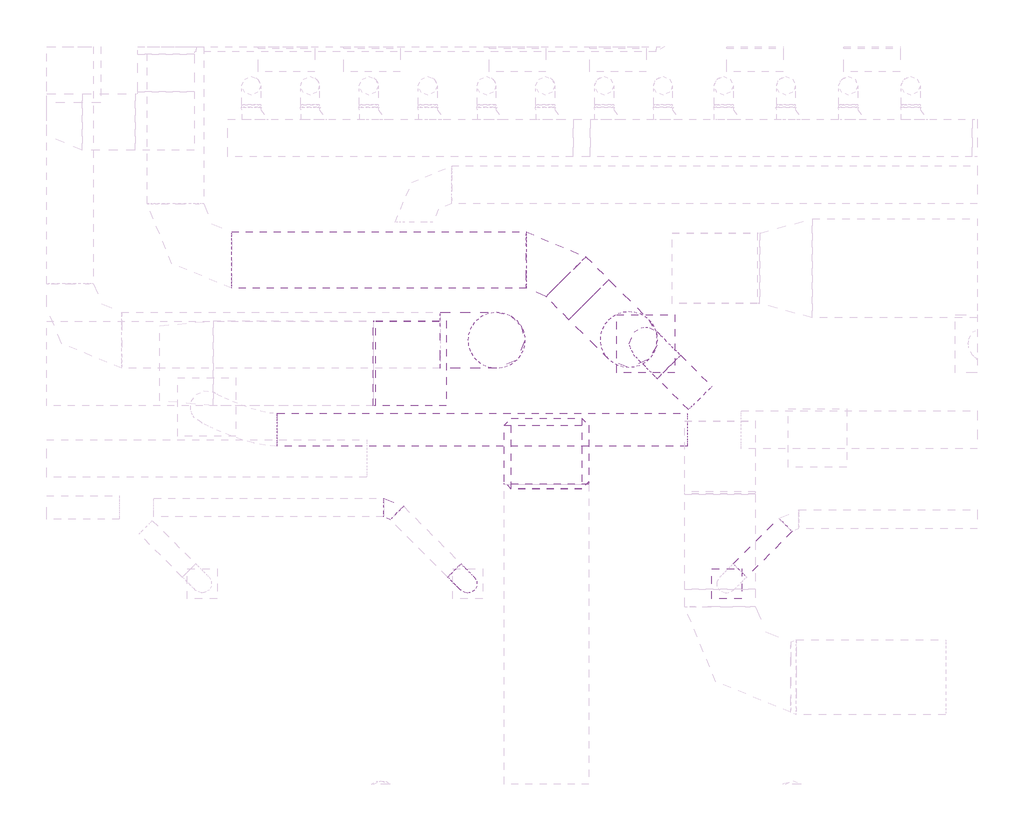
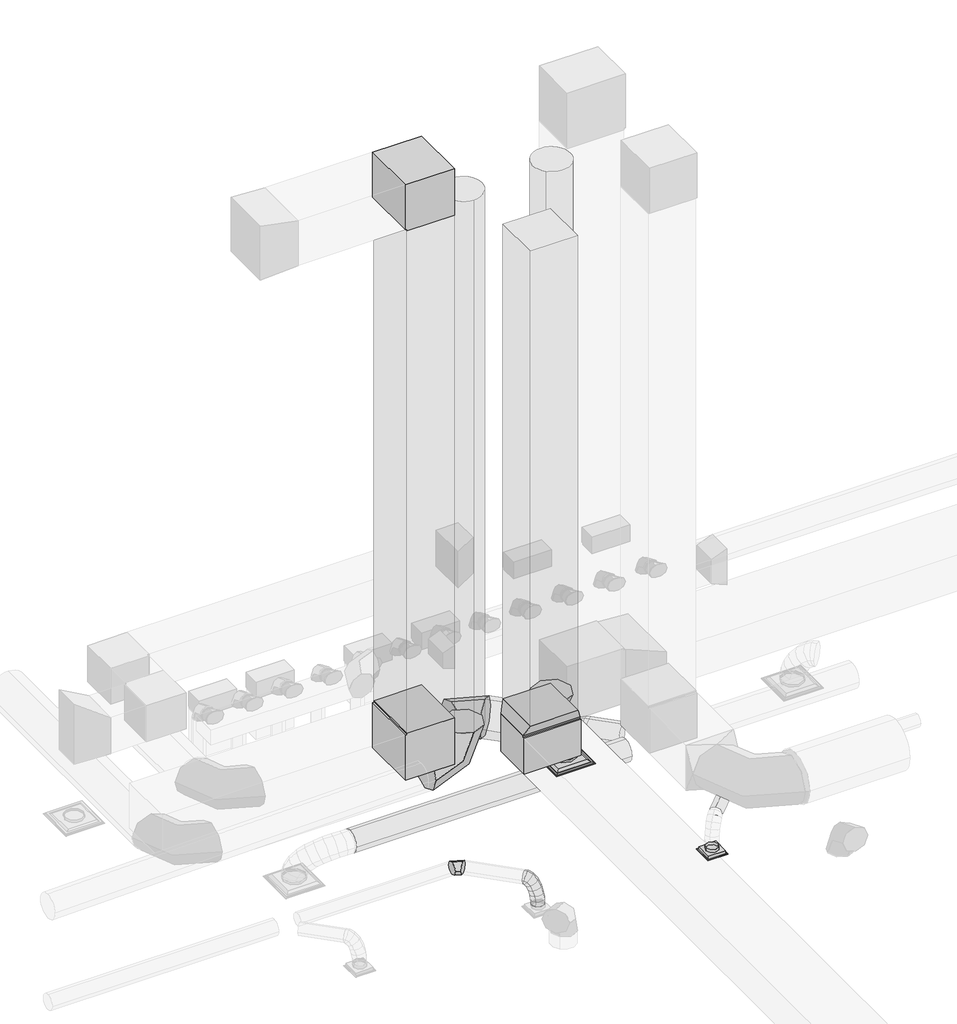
# One storey, part 18 of 33: 11 duct segments, 8 duct fittings, 2 air terminals.
"""IFC4 building model written with IfcOpenShell, lengths in millimetres."""

from ifc_helpers import new_model, si_unit, point, frame, frame_2d, origin, place, context, project, spatial, polyline, circle_curve, ellipse_curve, trimmed, segment, composite_curve, outline, extrude, transform, mapped, element, save
from ifc_brep_helpers import plane_surface, cylinder_surface, advanced_brep
from components import air_terminal_1ddfe03e, air_terminal_0721d01d, rectangular_elbow_mitered_standard_c88fa7ad, rectangular_elbow_mitered_standard_11e09260, rectangular_transition_angle_45_degree_c154c6b5, round_elbow_1_d_29f30982, round_elbow_1_d_755a5f0f, round_elbow_1_d_ab3aa7ba

model = new_model("IFC4")

# Units and contexts
model_context = context("Model", 3, world=origin())
ifc_project = project(units=[si_unit("LENGTHUNIT", "METRE", prefix="MILLI")], contexts=[model_context])

# Site, building, storey
site = spatial("IfcSite", under=ifc_project)
building = spatial("IfcBuilding", under=site)
storey = spatial("IfcBuildingStorey", under=building, Name="T.O. SLAB - 1ST", Elevation=-25.4)

# Air terminals
placement = place(None, origin())
air_terminal_shape = air_terminal_1ddfe03e(model_context)
element("IfcAirTerminal", 1, ObjectType="Titus-Round_Neck_Supply_Diffuser-PCS_Surface_Mount : PCS AA-14_24x24", at=placement, inside=storey, context=model_context, shape_type="MappedRepresentation", body=[
    mapped(air_terminal_shape, transform((19478.9003593, 22983.6286711, 3327.4), x_axis=(1.0, 0.0, 0.0), y_axis=(0.0, -1.0, 0.0), z_axis=(0.0, 0.0, -1.0))),
])
air_terminal_2_shape = air_terminal_0721d01d(model_context)
element("IfcAirTerminal", 2, ObjectType="Titus-Round_Neck_Supply_Diffuser-PCS_Surface_Mount : PCS AA-08_12x12", at=placement, inside=storey, context=model_context, shape_type="MappedRepresentation", body=[
    mapped(air_terminal_2_shape, transform((20351.6723097, 20391.6894865, 3022.6), x_axis=(1.0, 0.0, 0.0), y_axis=(0.0, -1.0, 0.0), z_axis=(0.0, 0.0, -1.0))),
])

# Duct fittings
rectangular_elbow_mitered_standard_shape = rectangular_elbow_mitered_standard_c88fa7ad(model_context)
element("IfcDuctFitting", 3, ObjectType="Rectangular Elbow - Mitered : Standard", at=placement, inside=storey, context=model_context, shape_type="MappedRepresentation", body=[
    mapped(rectangular_elbow_mitered_standard_shape, transform((18409.4301182, 21795.293068, 4826.0), x_axis=(0.0, 1.0, 0.0), y_axis=(0.0, 0.0, 1.0), z_axis=(1.0, 0.0, 0.0))),
])
rectangular_elbow_mitered_standard_2_shape = rectangular_elbow_mitered_standard_11e09260(model_context)
element("IfcDuctFitting", 4, ObjectType="Rectangular Elbow - Mitered : Standard", at=placement, inside=storey, context=model_context, shape_type="MappedRepresentation", body=[
    mapped(rectangular_elbow_mitered_standard_2_shape, transform((16945.8264124, 22769.923209, 4777.74), x_axis=(1.0, 0.0, 0.0), y_axis=(0.0, 0.0, 1.0), z_axis=(0.0, -1.0, 0.0))),
])
element("IfcDuctFitting", 5, ObjectType="Rectangular Elbow - Mitered : Standard", at=placement, inside=storey, context=model_context, shape_type="MappedRepresentation", body=[
    mapped(rectangular_elbow_mitered_standard_2_shape, transform((16945.8264124, 22769.923209, 14116.05), x_axis=(0.0, 0.0, 1.0), y_axis=(-1.0, 0.0, 0.0), z_axis=(0.0, -1.0, 0.0))),
])
rectangular_transition_angle_45_degree_shape = rectangular_transition_angle_45_degree_c154c6b5(model_context)
element("IfcDuctFitting", 6, ObjectType="Rectangular Transition - Angle : 45 Degree", at=placement, inside=storey, context=model_context, shape_type="MappedRepresentation", body=[
    mapped(rectangular_transition_angle_45_degree_shape, transform((18409.4301182, 21795.293068, 5156.2), x_axis=(0.0, 0.0, 1.0), y_axis=(1.0, 0.0, 0.0), z_axis=(0.0, 1.0, 0.0))),
])
round_elbow_1_d_shape = round_elbow_1_d_29f30982(model_context)
element("IfcDuctFitting", 7, ObjectType="Round Elbow : 1 D", at=placement, inside=storey, context=model_context, shape_type="MappedRepresentation", body=[
    mapped(round_elbow_1_d_shape, transform((17870.4478422, 23020.0042983, 3892.55), x_axis=(1.0, 0.0, 0.0), y_axis=(0.0, 0.0, 1.0), z_axis=(0.0, -1.0, 0.0))),
])
element("IfcDuctFitting", 8, ObjectType="Round Elbow : 1 D", at=placement, inside=storey, context=model_context, shape_type="MappedRepresentation", body=[
    mapped(round_elbow_1_d_shape, transform((19297.1535131, 23027.9919267, 3892.55), x_axis=(0.7071067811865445, -0.7071067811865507, 0.0), y_axis=(0.0, 0.0, 1.0), z_axis=(-0.7071067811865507, -0.7071067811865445, 0.0))),
])
round_elbow_1_d_2_shape = round_elbow_1_d_755a5f0f(model_context)
element("IfcDuctFitting", 9, ObjectType="Round Elbow : 1 D", at=placement, inside=storey, context=model_context, shape_type="MappedRepresentation", body=[
    mapped(round_elbow_1_d_2_shape, transform((18440.1410857, 23885.0043541, 3892.55), x_axis=(-0.7071067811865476, 0.7071067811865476, 0.0), y_axis=(-0.7071067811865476, -0.7071067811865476, 0.0), z_axis=(0.0, 0.0, 1.0))),
])
round_elbow_1_d_3_shape = round_elbow_1_d_ab3aa7ba(model_context)
element("IfcDuctFitting", 10, ObjectType="Round Elbow : 1 D", at=placement, inside=storey, context=model_context, shape_type="MappedRepresentation", body=[
    mapped(round_elbow_1_d_3_shape, transform((16734.2539256, 21215.1568577, 3530.6), x_axis=(-0.7071067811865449, 0.7071067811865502, 0.0), y_axis=(-0.7071067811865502, -0.7071067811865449, 0.0), z_axis=(0.0, 0.0, 1.0))),
])

# Duct segments
element("IfcDuctSegment", 11, ObjectType="Flex - Round", at=placement, inside=storey, context=model_context, shape_type="AdvancedBrep", body=[
    advanced_brep(
    [(17485.8794762, 20607.215405, 3530.6), (17414.0374273, 20535.373356, 3429.0), (17342.1953783, 20463.531307, 3530.6), (17414.0374273, 20535.373356, 3632.2), (17505.9829765, 20587.1119047, 3530.6), (17417.1673966, 20532.2433867, 3429.0), (17362.4010392, 20443.3256461, 3530.6), (17451.2166192, 20498.1941641, 3632.2), (17629.3956574, 20464.8406433, 3117.85), (17629.7309474, 20321.1569365, 3117.85), (17486.0472407, 20320.8216465, 3117.85), (17485.7119506, 20464.5053532, 3117.85), (17534.02094, 20559.1582995, 3510.7190932), (17419.4612965, 20529.9563885, 3427.3734621), (17390.5854391, 20415.2260451, 3510.6152594), (17505.1450826, 20444.4279562, 3593.9608905), (17571.1248871, 20522.2655796, 3457.7496289), (17440.2443078, 20509.2916917, 3397.7037083), (17427.7663971, 20378.2567527, 3457.5358548), (17558.6469764, 20391.2306406, 3517.5817754), (17598.177813, 20495.4874003, 3381.8316024), (17459.1464188, 20490.5815486, 3344.6591332), (17454.8456663, 20351.4524976, 3381.5439013), (17593.8770606, 20356.3583493, 3418.7163706), (17616.2153032, 20477.7248025, 3293.1032112), (17474.0785291, 20475.8770044, 3271.2064458), (17472.8815706, 20333.6914616, 3292.8233117), (17615.0183447, 20335.5392596, 3314.7200771), (17626.2743392, 20467.8773136, 3201.7268141), (17482.9013425, 20467.2397397, 3191.059909), (17482.9310377, 20323.8533402, 3201.5338375), (17626.3040345, 20324.4909141, 3212.2007426), (17629.3956574, 20464.8406433, 3123.1516787), (17485.7119506, 20464.5053532, 3120.3064954), (17486.0472407, 20320.8216465, 3123.0874722), (17629.7309474, 20321.1569365, 3125.9326555)],
    [
        (0, 1, circle_curve(frame((17414.0374273, 20535.373356, 3530.6), z_axis=(-0.7071067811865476, 0.7071067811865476, 0.0), x_axis=(0.7071067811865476, 0.7071067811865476, 0.0)), 101.6)),
        (1, 2, circle_curve(frame((17414.0374273, 20535.373356, 3530.6), z_axis=(-0.7071067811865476, 0.7071067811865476, 0.0), x_axis=(0.7071067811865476, 0.7071067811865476, 0.0)), 101.6)),
        (2, 3, circle_curve(frame((17414.0374273, 20535.373356, 3530.6), z_axis=(-0.7071067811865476, 0.7071067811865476, 0.0), x_axis=(0.7071067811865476, 0.7071067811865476, 0.0)), 101.6)),
        (3, 0, circle_curve(frame((17414.0374273, 20535.373356, 3530.6), z_axis=(-0.7071067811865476, 0.7071067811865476, 0.0), x_axis=(0.7071067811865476, 0.7071067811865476, 0.0)), 101.6)),
        (0, 4),
        (4, 5, ellipse_curve(frame((17434.1920079, 20515.2187754, 3530.6), z_axis=(-0.6885405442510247, 0.6875621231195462, 0.23058674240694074), x_axis=(-0.16098577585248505, 0.16511459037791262, -0.9730471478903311)), 104.4137922, 101.6)),
        (5, 1),
        (5, 6, ellipse_curve(frame((17434.1920079, 20515.2187754, 3530.6), z_axis=(-0.6885405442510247, 0.6875621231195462, 0.23058674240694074), x_axis=(-0.16098577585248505, 0.16511459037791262, -0.9730471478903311)), 104.4137922, 101.6)),
        (6, 2),
        (6, 7, ellipse_curve(frame((17434.1920079, 20515.2187754, 3530.6), z_axis=(-0.6885405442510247, 0.6875621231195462, 0.23058674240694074), x_axis=(-0.16098577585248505, 0.16511459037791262, -0.9730471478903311)), 104.4137922, 101.6)),
        (7, 3),
        (7, 4, ellipse_curve(frame((17434.1920079, 20515.2187754, 3530.6), z_axis=(-0.6885405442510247, 0.6875621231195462, 0.23058674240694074), x_axis=(-0.16098577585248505, 0.16511459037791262, -0.9730471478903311)), 104.4137922, 101.6)),
        (8, 9, circle_curve(frame((17557.721449, 20392.8311449, 3117.85), z_axis=(0.0, 0.0, -1.0), x_axis=(0.7054548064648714, 0.7087549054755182, 0.0)), 101.6)),
        (9, 10, circle_curve(frame((17557.721449, 20392.8311449, 3117.85), z_axis=(0.0, 0.0, -1.0), x_axis=(0.7054548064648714, 0.7087549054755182, 0.0)), 101.6)),
        (10, 11, circle_curve(frame((17557.721449, 20392.8311449, 3117.85), z_axis=(0.0, 0.0, -1.0), x_axis=(0.7054548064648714, 0.7087549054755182, 0.0)), 101.6)),
        (11, 8, circle_curve(frame((17557.721449, 20392.8311449, 3117.85), z_axis=(0.0, 0.0, -1.0), x_axis=(0.7054548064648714, 0.7087549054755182, 0.0)), 101.6)),
        (4, 12),
        (12, 13, ellipse_curve(frame((17462.3031895, 20487.1921723, 3510.6671763), z_axis=(-0.5732083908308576, 0.5708059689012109, 0.5878883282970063), x_axis=(-0.41426514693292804, 0.41713793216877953, -0.8089377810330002)), 102.96626, 101.6)),
        (13, 5),
        (13, 14, ellipse_curve(frame((17462.3031895, 20487.1921723, 3510.6671763), z_axis=(-0.5732083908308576, 0.5708059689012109, 0.5878883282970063), x_axis=(-0.41426514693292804, 0.41713793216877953, -0.8089377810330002)), 102.96626, 101.6)),
        (14, 6),
        (14, 15, ellipse_curve(frame((17462.3031895, 20487.1921723, 3510.6671763), z_axis=(-0.5732083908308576, 0.5708059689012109, 0.5878883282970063), x_axis=(-0.41426514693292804, 0.41713793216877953, -0.8089377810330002)), 102.96626, 101.6)),
        (15, 7),
        (15, 12, ellipse_curve(frame((17462.3031895, 20487.1921723, 3510.6671763), z_axis=(-0.5732083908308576, 0.5708059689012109, 0.5878883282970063), x_axis=(-0.41426514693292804, 0.41713793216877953, -0.8089377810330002)), 102.96626, 101.6)),
        (12, 16),
        (16, 17, ellipse_curve(frame((17499.4456421, 20450.2611661, 3457.6427419), z_axis=(-0.4135460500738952, 0.4104720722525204, 0.8127067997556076), x_axis=(-0.5740368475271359, 0.5753079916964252, -0.5826683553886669)), 102.8692851, 101.6)),
        (17, 13),
        (17, 18, ellipse_curve(frame((17499.4456421, 20450.2611661, 3457.6427419), z_axis=(-0.4135460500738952, 0.4104720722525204, 0.8127067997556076), x_axis=(-0.5740368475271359, 0.5753079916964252, -0.5826683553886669)), 102.8692851, 101.6)),
        (18, 14),
        (18, 19, ellipse_curve(frame((17499.4456421, 20450.2611661, 3457.6427419), z_axis=(-0.4135460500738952, 0.4104720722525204, 0.8127067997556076), x_axis=(-0.5740368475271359, 0.5753079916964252, -0.5826683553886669)), 102.8692851, 101.6)),
        (19, 15),
        (19, 16, ellipse_curve(frame((17499.4456421, 20450.2611661, 3457.6427419), z_axis=(-0.4135460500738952, 0.4104720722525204, 0.8127067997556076), x_axis=(-0.5740368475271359, 0.5753079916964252, -0.5826683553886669)), 102.8692851, 101.6)),
        (16, 20),
        (20, 21, ellipse_curve(frame((17526.5117397, 20423.4699489, 3381.6877519), z_axis=(-0.2581424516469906, 0.2550216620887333, 0.9318403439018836), x_axis=(-0.6595971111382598, 0.6582256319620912, -0.3628645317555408)), 102.0449505, 101.6)),
        (21, 17),
        (21, 22, ellipse_curve(frame((17526.5117397, 20423.4699489, 3381.6877519), z_axis=(-0.2581424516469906, 0.2550216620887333, 0.9318403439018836), x_axis=(-0.6595971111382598, 0.6582256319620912, -0.3628645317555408)), 102.0449505, 101.6)),
        (22, 18),
        (22, 23, ellipse_curve(frame((17526.5117397, 20423.4699489, 3381.6877519), z_axis=(-0.2581424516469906, 0.2550216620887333, 0.9318403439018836), x_axis=(-0.6595971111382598, 0.6582256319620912, -0.3628645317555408)), 102.0449505, 101.6)),
        (23, 19),
        (23, 20, ellipse_curve(frame((17526.5117397, 20423.4699489, 3381.6877519), z_axis=(-0.2581424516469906, 0.2550216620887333, 0.9318403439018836), x_axis=(-0.6595971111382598, 0.6582256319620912, -0.3628645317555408)), 102.0449505, 101.6)),
        (20, 24),
        (24, 25, ellipse_curve(frame((17544.5484369, 20405.708132, 3292.9632615), z_axis=(-0.15244196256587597, 0.14980311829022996, 0.9768932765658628), x_axis=(-0.6935272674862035, 0.6879980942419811, -0.2137254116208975)), 101.7990065, 101.6)),
        (25, 21),
        (25, 26, ellipse_curve(frame((17544.5484369, 20405.708132, 3292.9632615), z_axis=(-0.15244196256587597, 0.14980311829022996, 0.9768932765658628), x_axis=(-0.6935272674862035, 0.6879980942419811, -0.2137254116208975)), 101.7990065, 101.6)),
        (26, 22),
        (26, 27, ellipse_curve(frame((17544.5484369, 20405.708132, 3292.9632615), z_axis=(-0.15244196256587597, 0.14980311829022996, 0.9768932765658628), x_axis=(-0.6935272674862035, 0.6879980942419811, -0.2137254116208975)), 101.7990065, 101.6)),
        (27, 23),
        (27, 24, ellipse_curve(frame((17544.5484369, 20405.708132, 3292.9632615), z_axis=(-0.15244196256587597, 0.14980311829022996, 0.9768932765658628), x_axis=(-0.6935272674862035, 0.6879980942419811, -0.2137254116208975)), 101.7990065, 101.6)),
        (24, 28),
        (28, 29, ellipse_curve(frame((17554.6026885, 20395.8653269, 3201.6303258), z_axis=(-0.07431986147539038, 0.07263598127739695, 0.9945856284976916), x_axis=(-0.709471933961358, 0.6970295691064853, -0.10391994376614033)), 101.7208169, 101.6)),
        (29, 25),
        (29, 30, ellipse_curve(frame((17554.6026885, 20395.8653269, 3201.6303258), z_axis=(-0.07431986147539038, 0.07263598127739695, 0.9945856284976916), x_axis=(-0.709471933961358, 0.6970295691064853, -0.10391994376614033)), 101.7208169, 101.6)),
        (30, 26),
        (30, 31, ellipse_curve(frame((17554.6026885, 20395.8653269, 3201.6303258), z_axis=(-0.07431986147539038, 0.07263598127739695, 0.9945856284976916), x_axis=(-0.709471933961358, 0.6970295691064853, -0.10391994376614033)), 101.7208169, 101.6)),
        (31, 27),
        (31, 28, ellipse_curve(frame((17554.6026885, 20395.8653269, 3201.6303258), z_axis=(-0.07431986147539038, 0.07263598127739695, 0.9945856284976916), x_axis=(-0.709471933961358, 0.6970295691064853, -0.10391994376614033)), 101.7208169, 101.6)),
        (28, 32),
        (32, 33, ellipse_curve(frame((17557.721449, 20392.8311449, 3123.1195755), z_axis=(-0.019839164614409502, 0.019301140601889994, 0.9996168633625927), x_axis=(-0.7164843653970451, 0.6970538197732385, -0.027678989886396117)), 101.6389416, 101.6)),
        (33, 29),
        (33, 34, ellipse_curve(frame((17557.721449, 20392.8311449, 3123.1195755), z_axis=(-0.019839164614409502, 0.019301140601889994, 0.9996168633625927), x_axis=(-0.7164843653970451, 0.6970538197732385, -0.027678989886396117)), 101.6389416, 101.6)),
        (34, 30),
        (34, 35, ellipse_curve(frame((17557.721449, 20392.8311449, 3123.1195755), z_axis=(-0.019839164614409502, 0.019301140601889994, 0.9996168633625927), x_axis=(-0.7164843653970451, 0.6970538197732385, -0.027678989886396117)), 101.6389416, 101.6)),
        (35, 31),
        (35, 32, ellipse_curve(frame((17557.721449, 20392.8311449, 3123.1195755), z_axis=(-0.019839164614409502, 0.019301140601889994, 0.9996168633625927), x_axis=(-0.7164843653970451, 0.6970538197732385, -0.027678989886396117)), 101.6389416, 101.6)),
        (32, 8),
        (11, 33),
        (10, 34),
        (9, 35),
    ],
    [
        plane_surface(frame((17414.0374273, 20535.373356, 3429.0), z_axis=(-0.7071067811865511, 0.707106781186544, 0.0), x_axis=(0.707106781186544, 0.7071067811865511, 0.0))),
        cylinder_surface(frame((17414.0374273, 20535.373356, 3530.6), z_axis=(-0.7071067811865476, 0.7071067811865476, 0.0), x_axis=(0.7071067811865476, 0.7071067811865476, 0.0)), 101.6),
        plane_surface(frame((17557.721449, 20291.2311449, 3117.85), z_axis=(0.0, 0.0, -1.0), x_axis=(-1.0, 0.0, 0.0))),
        cylinder_surface(frame((17434.1920079, 20515.2187754, 3530.6), z_axis=(-0.6328640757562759, 0.6309599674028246, 0.4487455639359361), x_axis=(0.7061540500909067, 0.7080581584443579, 0.0003190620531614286)), 101.6),
        cylinder_surface(frame((17462.3031895, 20487.1921723, 3510.6671763), z_axis=(-0.4983408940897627, 0.4955039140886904, 0.7114297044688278), x_axis=(0.7056702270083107, 0.7085399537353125, 0.000815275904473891)), 101.6),
        cylinder_surface(frame((17499.4456421, 20450.2611661, 3457.6427419), z_axis=(-0.3185458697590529, 0.3153107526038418, 0.8939282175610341), x_axis=(0.7053983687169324, 0.7088097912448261, 0.0013495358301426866)), 101.6),
        cylinder_surface(frame((17526.5117397, 20423.4699489, 3381.6877519), z_axis=(-0.19548785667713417, 0.19250861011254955, 0.9616261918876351), x_axis=(0.7053602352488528, 0.7088474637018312, 0.0014871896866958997)), 101.6),
        cylinder_surface(frame((17544.5484369, 20405.708132, 3292.9632615), z_axis=(-0.10880005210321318, 0.10651192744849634, 0.9883409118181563), x_axis=(0.7053949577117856, 0.7088133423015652, 0.0012646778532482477)), 101.6),
        cylinder_surface(frame((17554.6026885, 20395.8653269, 3201.6303258), z_axis=(-0.039663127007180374, 0.038587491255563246, 0.998467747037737), x_axis=(0.7054422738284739, 0.7087670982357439, 0.0006314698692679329)), 101.6),
        cylinder_surface(frame((17557.721449, 20392.8311449, 3123.1195755), z_axis=(0.0, 0.0, 1.0), x_axis=(0.7054548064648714, 0.7087549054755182, 0.0)), 101.6),
    ],
    [
        (0, [[1, 2, 3, 4]]),
        (1, [[-1, 5, 6, 7]]),
        (1, [[-2, -7, 8, 9]]),
        (1, [[-3, -9, 10, 11]]),
        (1, [[-4, -11, 12, -5]]),
        (2, [[13, 14, 15, 16]]),
        (3, [[-6, 17, 18, 19]]),
        (3, [[-8, -19, 20, 21]]),
        (3, [[-10, -21, 22, 23]]),
        (3, [[-12, -23, 24, -17]]),
        (4, [[-18, 25, 26, 27]]),
        (4, [[-20, -27, 28, 29]]),
        (4, [[-22, -29, 30, 31]]),
        (4, [[-24, -31, 32, -25]]),
        (5, [[-26, 33, 34, 35]]),
        (5, [[-28, -35, 36, 37]]),
        (5, [[-30, -37, 38, 39]]),
        (5, [[-32, -39, 40, -33]]),
        (6, [[-34, 41, 42, 43]]),
        (6, [[-36, -43, 44, 45]]),
        (6, [[-38, -45, 46, 47]]),
        (6, [[-40, -47, 48, -41]]),
        (7, [[-42, 49, 50, 51]]),
        (7, [[-44, -51, 52, 53]]),
        (7, [[-46, -53, 54, 55]]),
        (7, [[-48, -55, 56, -49]]),
        (8, [[-50, 57, 58, 59]]),
        (8, [[-52, -59, 60, 61]]),
        (8, [[-54, -61, 62, 63]]),
        (8, [[-56, -63, 64, -57]]),
        (9, [[-58, 65, -16, 66]]),
        (9, [[-60, -66, -15, 67]]),
        (9, [[-62, -67, -14, 68]]),
        (9, [[-64, -68, -13, -65]]),
    ],
),
])
element("IfcDuctSegment", 12, ObjectType="Flex - Round", at=placement, inside=storey, context=model_context, shape_type="AdvancedBrep", body=[
    advanced_brep(
    [(19604.6304607, 22606.4513995, 3886.2), (19730.3507862, 22732.1782453, 3708.4), (19856.0711118, 22857.905091, 3886.2), (19730.3507862, 22732.1782453, 4064.0), (19577.1624717, 22633.917964, 3886.2), (19725.9660715, 22736.5627326, 3708.4), (19828.6046125, 22885.370166, 3886.2), (19679.8010126, 22782.7253974, 4064.0), (19353.1774961, 22857.904363, 3416.3), (19353.1760511, 23109.3515343, 3416.3), (19604.6232225, 23109.3529793, 3416.3), (19604.6246675, 22857.9058079, 3416.3), (19537.7734776, 22673.3058813, 3865.0329583), (19721.6061832, 22740.9225017, 3706.0570628), (19789.2177252, 22924.7559765, 3865.0340904), (19605.3850196, 22857.1393561, 4024.0099859), (19477.7037912, 22733.3748672, 3808.0239118), (19687.4575724, 22775.0707143, 3673.6483746), (19729.1492565, 22984.8237446, 3808.0261996), (19519.3954753, 22943.1278975, 3942.4017368), (19426.8149705, 22784.2641878, 3724.9093909), (19656.007946, 22806.5206497, 3622.2830532), (19678.261044, 23035.7124571, 3724.9126721), (19449.0680686, 23013.4559952, 3827.5390098), (19387.5014529, 22823.5788057, 3625.4262092), (19628.6281893, 22833.9011726, 3552.9983522), (19638.9475576, 23075.0270438, 3625.4295692), (19397.8208212, 23064.7046768, 3697.8574262), (19362.1575209, 22848.923838, 3519.3108128), (19610.4357804, 22852.0943713, 3476.8264827), (19613.6034218, 23100.3722798, 3519.3133196), (19365.3251623, 23097.2017465, 3561.7976497), (19353.1774961, 22857.904363, 3438.0554193), (19604.6246675, 22857.9058079, 3424.2448609), (19604.6232225, 23109.3529793, 3438.0563472), (19353.1760511, 23109.3515343, 3451.8669055)],
    [
        (0, 1, circle_curve(frame((19730.3507862, 22732.1782453, 3886.2), z_axis=(0.7071251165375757, -0.7070884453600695, 0.0), x_axis=(-0.7070884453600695, -0.7071251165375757, 0.0)), 177.8)),
        (1, 2, circle_curve(frame((19730.3507862, 22732.1782453, 3886.2), z_axis=(0.7071251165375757, -0.7070884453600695, 0.0), x_axis=(-0.7070884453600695, -0.7071251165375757, 0.0)), 177.8)),
        (2, 3, circle_curve(frame((19730.3507862, 22732.1782453, 3886.2), z_axis=(0.7071251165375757, -0.7070884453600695, 0.0), x_axis=(-0.7070884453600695, -0.7071251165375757, 0.0)), 177.8)),
        (3, 0, circle_curve(frame((19730.3507862, 22732.1782453, 3886.2), z_axis=(0.7071251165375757, -0.7070884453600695, 0.0), x_axis=(-0.7070884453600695, -0.7071251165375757, 0.0)), 177.8)),
        (0, 4),
        (4, 5, ellipse_curve(frame((19702.8835421, 22759.644065, 3886.2), z_axis=(0.6954967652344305, -0.695468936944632, 0.18057465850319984), x_axis=(0.12771131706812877, -0.12765981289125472, -0.9835612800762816)), 180.7716545, 177.8)),
        (5, 1),
        (5, 6, ellipse_curve(frame((19702.8835421, 22759.644065, 3886.2), z_axis=(0.6954967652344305, -0.695468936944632, 0.18057465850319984), x_axis=(0.12771131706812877, -0.12765981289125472, -0.9835612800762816)), 180.7716545, 177.8)),
        (6, 2),
        (6, 7, ellipse_curve(frame((19702.8835421, 22759.644065, 3886.2), z_axis=(0.6954967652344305, -0.695468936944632, 0.18057465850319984), x_axis=(0.12771131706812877, -0.12765981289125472, -0.9835612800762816)), 180.7716545, 177.8)),
        (7, 3),
        (7, 4, ellipse_curve(frame((19702.8835421, 22759.644065, 3886.2), z_axis=(0.6954967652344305, -0.695468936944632, 0.18057465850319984), x_axis=(0.12771131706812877, -0.12765981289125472, -0.9835612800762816)), 180.7716545, 177.8)),
        (8, 9, circle_curve(frame((19478.9003593, 22983.6286711, 3416.3), z_axis=(0.0, 0.0, -1.0), x_axis=(-0.7071027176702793, -0.7071108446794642, 0.0)), 177.8)),
        (9, 10, circle_curve(frame((19478.9003593, 22983.6286711, 3416.3), z_axis=(0.0, 0.0, -1.0), x_axis=(-0.7071027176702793, -0.7071108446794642, 0.0)), 177.8)),
        (10, 11, circle_curve(frame((19478.9003593, 22983.6286711, 3416.3), z_axis=(0.0, 0.0, -1.0), x_axis=(-0.7071027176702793, -0.7071108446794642, 0.0)), 177.8)),
        (11, 8, circle_curve(frame((19478.9003593, 22983.6286711, 3416.3), z_axis=(0.0, 0.0, -1.0), x_axis=(-0.7071027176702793, -0.7071108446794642, 0.0)), 177.8)),
        (4, 12),
        (12, 13, ellipse_curve(frame((19663.4956014, 22799.0309289, 3865.0335244), z_axis=(0.6281515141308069, -0.6281389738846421, 0.4592026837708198), x_axis=(0.3247300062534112, -0.3246806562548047, -0.8883315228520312)), 178.9607341, 177.8)),
        (13, 5),
        (13, 14, ellipse_curve(frame((19663.4956014, 22799.0309289, 3865.0335244), z_axis=(0.6281515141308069, -0.6281389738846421, 0.4592026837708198), x_axis=(0.3247300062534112, -0.3246806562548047, -0.8883315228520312)), 178.9607341, 177.8)),
        (14, 6),
        (14, 15, ellipse_curve(frame((19663.4956014, 22799.0309289, 3865.0335244), z_axis=(0.6281515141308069, -0.6281389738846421, 0.4592026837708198), x_axis=(0.3247300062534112, -0.3246806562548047, -0.8883315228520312)), 178.9607341, 177.8)),
        (15, 7),
        (15, 12, ellipse_curve(frame((19663.4956014, 22799.0309289, 3865.0335244), z_axis=(0.6281515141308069, -0.6281389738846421, 0.4592026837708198), x_axis=(0.3247300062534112, -0.3246806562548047, -0.8883315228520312)), 178.9607341, 177.8)),
        (12, 16),
        (16, 17, ellipse_curve(frame((19603.4265239, 22859.0993059, 3808.0250557), z_axis=(0.5296907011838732, -0.529689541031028, 0.6624626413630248), x_axis=(0.4684533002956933, -0.4684103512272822, -0.749094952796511)), 179.3853778, 177.8)),
        (17, 13),
        (17, 18, ellipse_curve(frame((19603.4265239, 22859.0993059, 3808.0250557), z_axis=(0.5296907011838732, -0.529689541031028, 0.6624626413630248), x_axis=(0.4684533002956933, -0.4684103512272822, -0.749094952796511)), 179.3853778, 177.8)),
        (18, 14),
        (18, 19, ellipse_curve(frame((19603.4265239, 22859.0993059, 3808.0250557), z_axis=(0.5296907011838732, -0.529689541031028, 0.6624626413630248), x_axis=(0.4684533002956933, -0.4684103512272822, -0.749094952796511)), 179.3853778, 177.8)),
        (19, 15),
        (19, 16, ellipse_curve(frame((19603.4265239, 22859.0993059, 3808.0250557), z_axis=(0.5296907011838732, -0.529689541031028, 0.6624626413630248), x_axis=(0.4684533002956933, -0.4684103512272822, -0.749094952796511)), 179.3853778, 177.8)),
        (16, 20),
        (20, 21, ellipse_curve(frame((19552.5380073, 22909.9883224, 3724.9110315), z_axis=(0.40602399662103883, -0.4060311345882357, 0.8187082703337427), x_axis=(0.5789267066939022, -0.5789016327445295, -0.5742096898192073)), 178.7290952, 177.8)),
        (21, 17),
        (21, 22, ellipse_curve(frame((19552.5380073, 22909.9883224, 3724.9110315), z_axis=(0.40602399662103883, -0.4060311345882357, 0.8187082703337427), x_axis=(0.5789267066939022, -0.5789016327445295, -0.5742096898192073)), 178.7290952, 177.8)),
        (22, 18),
        (22, 23, ellipse_curve(frame((19552.5380073, 22909.9883224, 3724.9110315), z_axis=(0.40602399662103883, -0.4060311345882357, 0.8187082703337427), x_axis=(0.5789267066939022, -0.5789016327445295, -0.5742096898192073)), 178.7290952, 177.8)),
        (23, 19),
        (23, 20, ellipse_curve(frame((19552.5380073, 22909.9883224, 3724.9110315), z_axis=(0.40602399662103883, -0.4060311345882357, 0.8187082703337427), x_axis=(0.5789267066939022, -0.5789016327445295, -0.5742096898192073)), 178.7290952, 177.8)),
        (20, 24),
        (24, 25, ellipse_curve(frame((19513.2245052, 22949.3029247, 3625.4278892), z_axis=(0.28682907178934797, -0.2868388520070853, 0.9140309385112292), x_axis=(0.646317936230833, -0.6463170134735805, -0.4056444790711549)), 178.5542285, 177.8)),
        (25, 21),
        (25, 26, ellipse_curve(frame((19513.2245052, 22949.3029247, 3625.4278892), z_axis=(0.28682907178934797, -0.2868388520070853, 0.9140309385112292), x_axis=(0.646317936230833, -0.6463170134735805, -0.4056444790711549)), 178.5542285, 177.8)),
        (26, 22),
        (26, 27, ellipse_curve(frame((19513.2245052, 22949.3029247, 3625.4278892), z_axis=(0.28682907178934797, -0.2868388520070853, 0.9140309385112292), x_axis=(0.646317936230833, -0.6463170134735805, -0.4056444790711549)), 178.5542285, 177.8)),
        (27, 23),
        (27, 24, ellipse_curve(frame((19513.2245052, 22949.3029247, 3625.4278892), z_axis=(0.28682907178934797, -0.2868388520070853, 0.9140309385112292), x_axis=(0.646317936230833, -0.6463170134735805, -0.4056444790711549)), 178.5542285, 177.8)),
        (24, 28),
        (28, 29, ellipse_curve(frame((19487.8804714, 22974.6480589, 3519.3120662), z_axis=(0.16834525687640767, -0.1683532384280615, 0.9712451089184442), x_axis=(0.686763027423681, -0.6867849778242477, -0.23808178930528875)), 178.4495304, 177.8)),
        (29, 25),
        (29, 30, ellipse_curve(frame((19487.8804714, 22974.6480589, 3519.3120662), z_axis=(0.16834525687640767, -0.1683532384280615, 0.9712451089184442), x_axis=(0.686763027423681, -0.6867849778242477, -0.23808178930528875)), 178.4495304, 177.8)),
        (30, 26),
        (30, 31, ellipse_curve(frame((19487.8804714, 22974.6480589, 3519.3120662), z_axis=(0.16834525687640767, -0.1683532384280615, 0.9712451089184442), x_axis=(0.686763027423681, -0.6867849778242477, -0.23808178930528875)), 178.4495304, 177.8)),
        (31, 27),
        (31, 28, ellipse_curve(frame((19487.8804714, 22974.6480589, 3519.3120662), z_axis=(0.16834525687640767, -0.1683532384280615, 0.9712451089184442), x_axis=(0.686763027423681, -0.6867849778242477, -0.23808178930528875)), 178.4495304, 177.8)),
        (28, 32),
        (32, 33, ellipse_curve(frame((19478.9003593, 22983.6286711, 3438.0558832), z_axis=(0.05475965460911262, -0.054762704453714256, 0.9969967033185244), x_axis=(0.7049634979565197, -0.7050027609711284, -0.07744400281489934)), 178.3355947, 177.8)),
        (33, 29),
        (33, 34, ellipse_curve(frame((19478.9003593, 22983.6286711, 3438.0558832), z_axis=(0.05475965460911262, -0.054762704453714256, 0.9969967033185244), x_axis=(0.7049634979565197, -0.7050027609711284, -0.07744400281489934)), 178.3355947, 177.8)),
        (34, 30),
        (34, 35, ellipse_curve(frame((19478.9003593, 22983.6286711, 3438.0558832), z_axis=(0.05475965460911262, -0.054762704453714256, 0.9969967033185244), x_axis=(0.7049634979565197, -0.7050027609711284, -0.07744400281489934)), 178.3355947, 177.8)),
        (35, 31),
        (35, 32, ellipse_curve(frame((19478.9003593, 22983.6286711, 3438.0558832), z_axis=(0.05475965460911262, -0.054762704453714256, 0.9969967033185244), x_axis=(0.7049634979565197, -0.7050027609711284, -0.07744400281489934)), 178.3355947, 177.8)),
        (32, 8),
        (11, 33),
        (10, 34),
        (9, 35),
    ],
    [
        plane_surface(frame((19730.3507862, 22732.1782453, 4064.0), z_axis=(0.7071251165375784, -0.7070884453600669, 0.0), x_axis=(0.7070884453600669, 0.7071251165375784, 0.0))),
        cylinder_surface(frame((19730.3507862, 22732.1782453, 3886.2), z_axis=(0.7071251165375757, -0.7070884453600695, 0.0), x_axis=(-0.7070884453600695, -0.7071251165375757, 0.0)), 177.8),
        plane_surface(frame((19478.9003593, 22805.8286711, 3416.3), z_axis=(0.0, 0.0, -1.0), x_axis=(-1.0, 0.0, 0.0))),
        cylinder_surface(frame((19702.8835421, 22759.644065, 3886.2), z_axis=(0.6610022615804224, -0.660984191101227, 0.3552124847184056), x_axis=(-0.7070965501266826, -0.7071170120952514, -2.1042735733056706e-06)), 177.8),
        cylinder_surface(frame((19663.4956014, 22799.0309289, 3865.0335244), z_axis=(0.58715242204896, -0.5871455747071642, 0.5572361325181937), x_axis=(-0.7071003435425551, -0.7071132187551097, -4.877405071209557e-06)), 177.8),
        cylinder_surface(frame((19603.4265239, 22859.0993059, 3808.0250557), z_axis=(0.4628663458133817, -0.4628708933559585, 0.7559796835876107), x_axis=(-0.707103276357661, -0.7071102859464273, -8.54535777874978e-06)), 177.8),
        cylinder_surface(frame((19552.5380073, 22909.9883224, 3724.9110315), z_axis=(0.3449603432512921, -0.3449699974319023, 0.8729250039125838), x_axis=(-0.7071040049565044, -0.7071095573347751, -1.0014507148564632e-05)), 177.8),
        cylinder_surface(frame((19513.2245052, 22949.3029247, 3625.4278892), z_axis=(0.22627461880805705, -0.22628444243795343, 0.9474149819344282), x_axis=(-0.7071036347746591, -0.7071099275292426, -8.834858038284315e-06)), 177.8),
        cylinder_surface(frame((19487.8804714, 22974.6480589, 3519.3120662), z_axis=(0.10919039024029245, -0.10919647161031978, 0.9880048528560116), x_axis=(-0.7071030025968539, -0.7071105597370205, -5.18759400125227e-06)), 177.8),
        cylinder_surface(frame((19478.9003593, 22983.6286711, 3438.0558832), z_axis=(0.0, 0.0, 1.0000000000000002), x_axis=(-0.7071027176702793, -0.7071108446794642, 0.0)), 177.8),
    ],
    [
        (0, [[1, 2, 3, 4]]),
        (1, [[-1, 5, 6, 7]]),
        (1, [[-2, -7, 8, 9]]),
        (1, [[-3, -9, 10, 11]]),
        (1, [[-4, -11, 12, -5]]),
        (2, [[13, 14, 15, 16]]),
        (3, [[-6, 17, 18, 19]]),
        (3, [[-8, -19, 20, 21]]),
        (3, [[-10, -21, 22, 23]]),
        (3, [[-12, -23, 24, -17]]),
        (4, [[-18, 25, 26, 27]]),
        (4, [[-20, -27, 28, 29]]),
        (4, [[-22, -29, 30, 31]]),
        (4, [[-24, -31, 32, -25]]),
        (5, [[-26, 33, 34, 35]]),
        (5, [[-28, -35, 36, 37]]),
        (5, [[-30, -37, 38, 39]]),
        (5, [[-32, -39, 40, -33]]),
        (6, [[-34, 41, 42, 43]]),
        (6, [[-36, -43, 44, 45]]),
        (6, [[-38, -45, 46, 47]]),
        (6, [[-40, -47, 48, -41]]),
        (7, [[-42, 49, 50, 51]]),
        (7, [[-44, -51, 52, 53]]),
        (7, [[-46, -53, 54, 55]]),
        (7, [[-48, -55, 56, -49]]),
        (8, [[-50, 57, 58, 59]]),
        (8, [[-52, -59, 60, 61]]),
        (8, [[-54, -61, 62, 63]]),
        (8, [[-56, -63, 64, -57]]),
        (9, [[-58, 65, -16, 66]]),
        (9, [[-60, -66, -15, 67]]),
        (9, [[-62, -67, -14, 68]]),
        (9, [[-64, -68, -13, -65]]),
    ],
),
])
element("IfcDuctSegment", 13, ObjectType="Mitered Elbows / Taps", at=placement, inside=storey, context=model_context, shape_type="SweptSolid", body=[
    extrude(outline(polyline([(17326.8264124, 23227.123209), (17326.8264124, 22312.723209), (16564.8264124, 22312.723209), (16564.8264124, 23227.123209), (17326.8264124, 23227.123209)])), frame((0.0, 0.0, 5184.14), z_axis=(0.0, 0.0, 1.0), x_axis=(1.0, 0.0, 0.0)), (0.0, 0.0, 1.0), 8525.51),
])
element("IfcDuctSegment", 14, ObjectType="Mitered Elbows / Taps", at=placement, inside=storey, context=model_context, shape_type="SweptSolid", body=[
    extrude(outline(polyline([(18790.4301182, 21414.293068), (18028.4301182, 21414.293068), (18028.4301182, 22176.293068), (18790.4301182, 22176.293068), (18790.4301182, 21414.293068)])), frame((0.0, 0.0, 5340.1630735), z_axis=(0.0, 0.0, 1.0), x_axis=(1.0, 0.0, 0.0)), (0.0, 0.0, 1.0), 8051.9869265),
])
element("IfcDuctSegment", 15, ObjectType="Taps", at=placement, inside=storey, context=model_context, shape_type="SweptSolid", body=[
    extrude(outline(composite_curve([segment(trimmed(circle_curve(frame_2d((0.0, -101.6)), 101.6), [point((-101.6, -101.6))], [point((0.0, 0.0))], False, "CARTESIAN"), True, "CONTINUOUS"), segment(trimmed(circle_curve(frame_2d((0.0, -101.6)), 101.6), [point((0.0, 0.0))], [point((101.5999999, -101.6))], False, "CARTESIAN"), True, "CONTINUOUS"), segment(trimmed(circle_curve(frame_2d((0.0, -101.6)), 101.6), [point((101.5999999, -101.6))], [point((0.0, -203.2))], False, "CARTESIAN"), True, "CONTINUOUS"), segment(trimmed(circle_curve(frame_2d((0.0, -101.6)), 101.6), [point((0.0, -203.2))], [point((-101.6, -101.6))], False, "CARTESIAN"), True, "CONTINUOUS")], self_intersect=False)), frame((20495.3562797, 20535.3734078, 3429.0), z_axis=(0.7071067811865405, 0.7071067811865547, 0.0), x_axis=(0.7071067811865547, -0.7071067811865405, 0.0)), (0.0, 0.0, 1.0), 696.7526808),
])
element("IfcDuctSegment", 16, ObjectType="Taps", at=placement, inside=storey, context=model_context, shape_type="SweptSolid", body=[
    extrude(outline(composite_curve([segment(trimmed(circle_curve(frame_2d((22053.924362, 3886.192755)), 177.8), [point((22231.724362, 3886.192755))], [point((22053.924362, 3708.392755))], False, "CARTESIAN"), True, "CONTINUOUS"), segment(trimmed(circle_curve(frame_2d((22053.924362, 3886.192755)), 177.8), [point((22053.924362, 3708.392755))], [point((21876.124362, 3886.192755))], False, "CARTESIAN"), True, "CONTINUOUS"), segment(trimmed(circle_curve(frame_2d((22053.924362, 3886.192755)), 177.8), [point((21876.124362, 3886.192755))], [point((22053.924362, 4063.992755))], False, "CARTESIAN"), True, "CONTINUOUS"), segment(trimmed(circle_curve(frame_2d((22053.924362, 3886.192755)), 177.8), [point((22053.924362, 4063.992755))], [point((22231.724362, 3886.192755))], False, "CARTESIAN"), True, "CONTINUOUS")], self_intersect=False)), frame((15504.8927961, 0.0, 0.0), z_axis=(1.0, 0.0, 0.0), x_axis=(0.0, 1.0, 0.0)), (0.0, 0.0, 1.0), 4421.4534207),
])
element("IfcDuctSegment", 17, ObjectType="Taps", at=placement, inside=storey, context=model_context, shape_type="SweptSolid", body=[
    extrude(outline(composite_curve([segment(trimmed(circle_curve(frame_2d((0.0, 177.8)), 177.8), [point((177.7999999, 177.8046107))], [point((0.0046106, 0.0))], False, "CARTESIAN"), True, "CONTINUOUS"), segment(trimmed(circle_curve(frame_2d((0.0, 177.8)), 177.8), [point((0.0046106, 0.0))], [point((-177.7999999, 177.7953893))], False, "CARTESIAN"), True, "CONTINUOUS"), segment(trimmed(circle_curve(frame_2d((0.0, 177.8)), 177.8), [point((-177.7999999, 177.7953893))], [point((-0.0046107, 355.5999999))], False, "CARTESIAN"), True, "CONTINUOUS"), segment(trimmed(circle_curve(frame_2d((0.0, 177.8)), 177.8), [point((-0.0046107, 355.5999999))], [point((177.7999999, 177.8046107))], False, "CARTESIAN"), True, "CONTINUOUS")], self_intersect=False)), frame((20066.9662348, 22395.5737331, 4063.9876561), z_axis=(-0.7071251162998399, 0.7070884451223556, 2.5930438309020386e-05), x_axis=(0.7070884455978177, 0.707125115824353, 2.5931783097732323e-05)), (0.0, 0.0, 1.0), 476.0337892),
])
element("IfcDuctSegment", 18, ObjectType="Taps", at=placement, inside=storey, context=model_context, shape_type="SweptSolid", body=[
    extrude(outline(composite_curve([segment(trimmed(circle_curve(frame_2d((19297.1535131, 23027.9919267)), 304.8), [point((19081.6273662, 22812.4657798))], [point((19081.6273662, 23243.5180736))], False, "CARTESIAN"), True, "CONTINUOUS"), segment(trimmed(circle_curve(frame_2d((19297.1535131, 23027.9919267)), 304.8), [point((19081.6273662, 23243.5180736))], [point((19512.67966, 23243.5180736))], False, "CARTESIAN"), True, "CONTINUOUS"), segment(trimmed(circle_curve(frame_2d((19297.1535131, 23027.9919267)), 304.8), [point((19512.67966, 23243.5180736))], [point((19512.67966, 22812.4657798))], False, "CARTESIAN"), True, "CONTINUOUS"), segment(trimmed(circle_curve(frame_2d((19297.1535131, 23027.9919267)), 304.8), [point((19512.67966, 22812.4657798))], [point((19081.6273662, 22812.4657798))], False, "CARTESIAN"), True, "CONTINUOUS")], self_intersect=False)), frame((0.0, 0.0, 4502.15), z_axis=(0.0, 0.0, 1.0), x_axis=(1.0, 0.0, 0.0)), (0.0, 0.0, 1.0), 9029.7),
])
element("IfcDuctSegment", 19, ObjectType="Taps", at=placement, inside=storey, context=model_context, shape_type="SweptSolid", body=[
    extrude(outline(composite_curve([segment(trimmed(circle_curve(frame_2d((0.0, 304.8)), 304.8), [point((304.8, 304.8))], [point((0.0, 0.0))], False, "CARTESIAN"), True, "CONTINUOUS"), segment(trimmed(circle_curve(frame_2d((0.0, 304.8)), 304.8), [point((0.0, 0.0))], [point((-304.8, 304.8))], False, "CARTESIAN"), True, "CONTINUOUS"), segment(trimmed(circle_curve(frame_2d((0.0, 304.8)), 304.8), [point((-304.8, 304.8))], [point((0.0, 609.6))], False, "CARTESIAN"), True, "CONTINUOUS"), segment(trimmed(circle_curve(frame_2d((0.0, 304.8)), 304.8), [point((0.0, 609.6))], [point((304.8, 304.8))], False, "CARTESIAN"), True, "CONTINUOUS")], self_intersect=False)), frame((18866.1012193, 23459.0442205, 4197.35), z_axis=(-0.7071067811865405, 0.7071067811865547, 0.0), x_axis=(0.7071067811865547, 0.7071067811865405, 0.0)), (0.0, 0.0, 1.0), 349.8940103),
])
element("IfcDuctSegment", 20, ObjectType="Taps", at=placement, inside=storey, context=model_context, shape_type="SweptSolid", body=[
    extrude(outline(composite_curve([segment(trimmed(circle_curve(frame_2d((23885.0043541, 3892.55)), 304.8), [point((24189.8043541, 3892.55))], [point((23885.0043541, 3587.75))], False, "CARTESIAN"), True, "CONTINUOUS"), segment(trimmed(circle_curve(frame_2d((23885.0043541, 3892.55)), 304.8), [point((23885.0043541, 3587.75))], [point((23580.2043541, 3892.55))], False, "CARTESIAN"), True, "CONTINUOUS"), segment(trimmed(circle_curve(frame_2d((23885.0043541, 3892.55)), 304.8), [point((23580.2043541, 3892.55))], [point((23885.0043541, 4197.35))], False, "CARTESIAN"), True, "CONTINUOUS"), segment(trimmed(circle_curve(frame_2d((23885.0043541, 3892.55)), 304.8), [point((23885.0043541, 4197.35))], [point((24189.8043541, 3892.55))], False, "CARTESIAN"), True, "CONTINUOUS")], self_intersect=False)), frame((15012.5161472, 0.0, 0.0), z_axis=(1.0, 0.0, 0.0), x_axis=(0.0, 1.0, 0.0)), (0.0, 0.0, 1.0), 3175.1203509),
])
element("IfcDuctSegment", 21, ObjectType="Tees", at=placement, inside=storey, context=model_context, shape_type="SweptSolid", body=[
    extrude(outline(composite_curve([segment(trimmed(circle_curve(frame_2d((17870.4478422, 23020.0042983)), 304.8), [point((17870.4478422, 22715.2042983))], [point((17565.6478422, 23020.0042983))], False, "CARTESIAN"), True, "CONTINUOUS"), segment(trimmed(circle_curve(frame_2d((17870.4478422, 23020.0042983)), 304.8), [point((17565.6478422, 23020.0042983))], [point((17870.4478422, 23324.8042983))], False, "CARTESIAN"), True, "CONTINUOUS"), segment(trimmed(circle_curve(frame_2d((17870.4478422, 23020.0042983)), 304.8), [point((17870.4478422, 23324.8042983))], [point((18175.2478422, 23020.0042983))], False, "CARTESIAN"), True, "CONTINUOUS"), segment(trimmed(circle_curve(frame_2d((17870.4478422, 23020.0042983)), 304.8), [point((18175.2478422, 23020.0042983))], [point((17870.4478422, 22715.2042983))], False, "CARTESIAN"), True, "CONTINUOUS")], self_intersect=False)), frame((0.0, 0.0, 4502.15), z_axis=(0.0, 0.0, 1.0), x_axis=(1.0, 0.0, 0.0)), (0.0, 0.0, 1.0), 9029.7),
])

save(model, "model.ifc")
